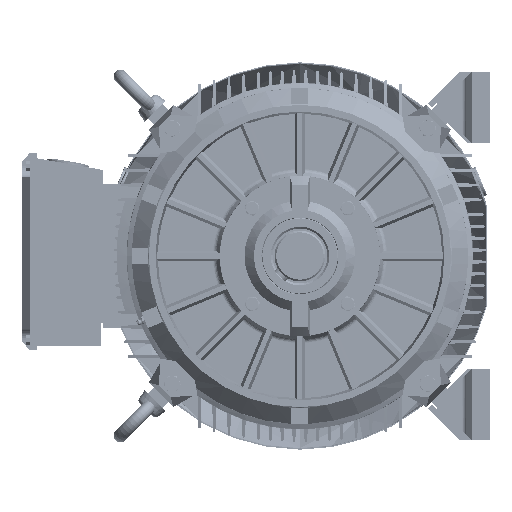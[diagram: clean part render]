
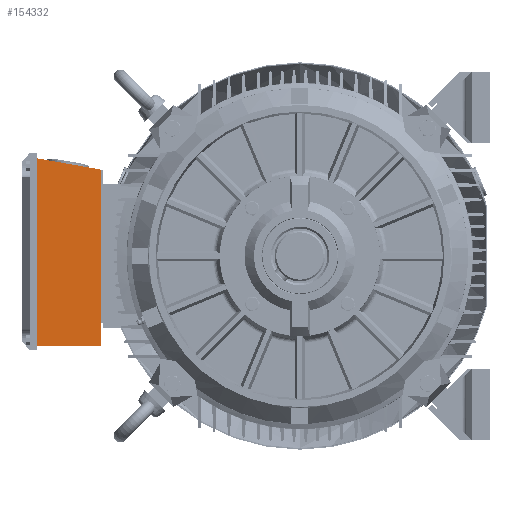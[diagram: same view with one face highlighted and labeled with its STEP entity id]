
A CAD part, left-side view. The second image highlights one B-rep face of the part: STEP entity #154332.
In plain terms, the highlighted planar face has unit normal (-1, 0, 0).
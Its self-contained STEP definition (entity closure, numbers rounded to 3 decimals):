
#3181 = DIRECTION ( 'NONE',  ( 1., 0., 0. ) ) ;
#6850 = VECTOR ( 'NONE', #269073, 1000. ) ;
#8045 = EDGE_CURVE ( 'NONE', #295590, #76930, #204069, .T. ) ;
#8964 = CARTESIAN_POINT ( 'NONE',  ( -30.206, 291.768, 115.581 ) ) ;
#11028 = EDGE_LOOP ( 'NONE', ( #136467, #19425, #252959, #117570 ) ) ;
#13645 = CARTESIAN_POINT ( 'NONE',  ( -30.206, 215.768, -106.82 ) ) ;
#19425 = ORIENTED_EDGE ( 'NONE', *, *, #187973, .T. ) ;
#26404 = AXIS2_PLACEMENT_3D ( 'NONE', #116049, #3181, #208986 ) ;
#36603 = VERTEX_POINT ( 'NONE', #245508 ) ;
#44466 = PLANE ( 'NONE',  #26404 ) ;
#75242 = EDGE_CURVE ( 'NONE', #36603, #145326, #110164, .T. ) ;
#76930 = VERTEX_POINT ( 'NONE', #149203 ) ;
#106043 = LINE ( 'NONE', #291913, #6850 ) ;
#106621 = DIRECTION ( 'NONE',  ( 0., -1., 0. ) ) ;
#108642 = CARTESIAN_POINT ( 'NONE',  ( -30.206, 215.768, 102.18 ) ) ;
#110164 = LINE ( 'NONE', #108642, #181166 ) ;
#116049 = CARTESIAN_POINT ( 'NONE',  ( -30.206, 291.768, -106.82 ) ) ;
#117570 = ORIENTED_EDGE ( 'NONE', *, *, #152204, .T. ) ;
#136467 = ORIENTED_EDGE ( 'NONE', *, *, #8045, .T. ) ;
#143941 = VECTOR ( 'NONE', #255667, 1000. ) ;
#145326 = VERTEX_POINT ( 'NONE', #8964 ) ;
#149203 = CARTESIAN_POINT ( 'NONE',  ( -30.206, 215.768, -106.82 ) ) ;
#152204 = EDGE_CURVE ( 'NONE', #145326, #295590, #106043, .T. ) ;
#154332 = ADVANCED_FACE ( 'NONE', ( #187627 ), #44466, .F. ) ;
#177203 = DIRECTION ( 'NONE',  ( 0., 0.985, 0.174 ) ) ;
#180218 = VECTOR ( 'NONE', #106621, 1000. ) ;
#181166 = VECTOR ( 'NONE', #177203, 1000. ) ;
#184052 = LINE ( 'NONE', #231307, #143941 ) ;
#187627 = FACE_OUTER_BOUND ( 'NONE', #11028, .T. ) ;
#187973 = EDGE_CURVE ( 'NONE', #76930, #36603, #184052, .T. ) ;
#204069 = LINE ( 'NONE', #13645, #180218 ) ;
#208986 = DIRECTION ( 'NONE',  ( 0., -1., 0. ) ) ;
#231307 = CARTESIAN_POINT ( 'NONE',  ( -30.206, 215.768, -106.82 ) ) ;
#245508 = CARTESIAN_POINT ( 'NONE',  ( -30.206, 215.768, 102.18 ) ) ;
#252959 = ORIENTED_EDGE ( 'NONE', *, *, #75242, .T. ) ;
#255667 = DIRECTION ( 'NONE',  ( 0., 0., 1. ) ) ;
#263217 = CARTESIAN_POINT ( 'NONE',  ( -30.206, 291.768, -106.82 ) ) ;
#269073 = DIRECTION ( 'NONE',  ( 0., 0., -1. ) ) ;
#291913 = CARTESIAN_POINT ( 'NONE',  ( -30.206, 291.768, -106.82 ) ) ;
#295590 = VERTEX_POINT ( 'NONE', #263217 ) ;
